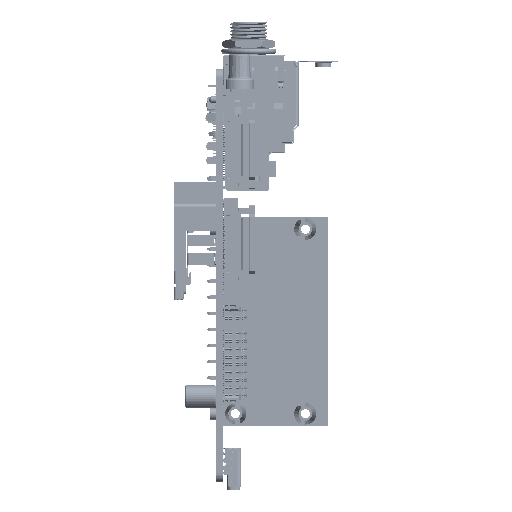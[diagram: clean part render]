
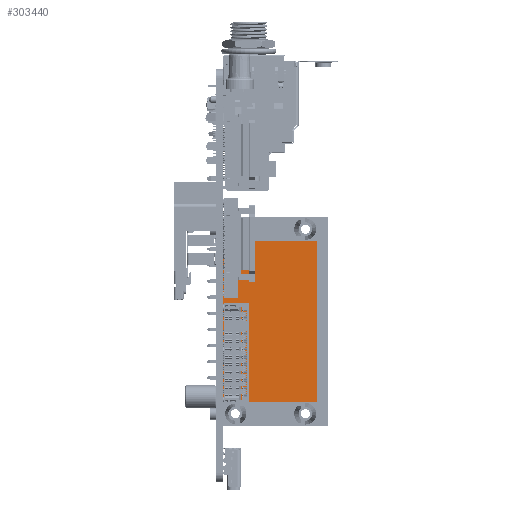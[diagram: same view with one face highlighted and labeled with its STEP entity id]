
A CAD part, left-side view. The second image highlights one B-rep face of the part: STEP entity #303440.
In plain terms, the highlighted planar face has unit normal (-1, 0, 0) as drawn and (0, 1, 0) by its records, which use the part's own axes.
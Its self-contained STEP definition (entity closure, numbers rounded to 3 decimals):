
#303354=DIRECTION('',(0.,0.,-1.));
#303355=VECTOR('',#303354,20.37);
#303356=CARTESIAN_POINT('',(31.5,10.9,20.37));
#303357=LINE('',#303356,#303355);
#303358=DIRECTION('',(1.,0.,0.));
#303359=VECTOR('',#303358,35.);
#303360=CARTESIAN_POINT('',(-3.5,10.9,20.37));
#303361=LINE('',#303360,#303359);
#303366=DIRECTION('',(1.,0.,0.));
#303367=VECTOR('',#303366,35.);
#303368=CARTESIAN_POINT('',(-3.5,10.9,0.));
#303369=LINE('',#303368,#303367);
#303378=DIRECTION('',(0.,0.,-1.));
#303379=VECTOR('',#303378,20.37);
#303380=CARTESIAN_POINT('',(-3.5,10.9,20.37));
#303381=LINE('',#303380,#303379);
#303394=CARTESIAN_POINT('',(-3.5,10.9,20.37));
#303395=CARTESIAN_POINT('',(31.5,10.9,20.37));
#303396=VERTEX_POINT('',#303394);
#303397=VERTEX_POINT('',#303395);
#303402=CARTESIAN_POINT('',(-3.5,10.9,0.));
#303403=CARTESIAN_POINT('',(31.5,10.9,0.));
#303404=VERTEX_POINT('',#303402);
#303405=VERTEX_POINT('',#303403);
#303426=CARTESIAN_POINT('',(0.,10.9,20.37));
#303427=DIRECTION('',(0.,-1.,0.));
#303428=DIRECTION('',(0.,0.,-1.));
#303429=AXIS2_PLACEMENT_3D('',#303426,#303427,#303428);
#303430=PLANE('',#303429);
#303432=ORIENTED_EDGE('',*,*,#303431,.T.);
#303434=ORIENTED_EDGE('',*,*,#303433,.F.);
#303435=ORIENTED_EDGE('',*,*,#303415,.F.);
#303437=ORIENTED_EDGE('',*,*,#303436,.T.);
#303438=EDGE_LOOP('',(#303432,#303434,#303435,#303437));
#303439=FACE_OUTER_BOUND('',#303438,.F.);
#303440=ADVANCED_FACE('',(#303439),#303430,.F.);
#303415=EDGE_CURVE('',#303396,#303397,#303361,.T.);
#303431=EDGE_CURVE('',#303404,#303405,#303369,.T.);
#303433=EDGE_CURVE('',#303397,#303405,#303357,.T.);
#303436=EDGE_CURVE('',#303396,#303404,#303381,.T.);
